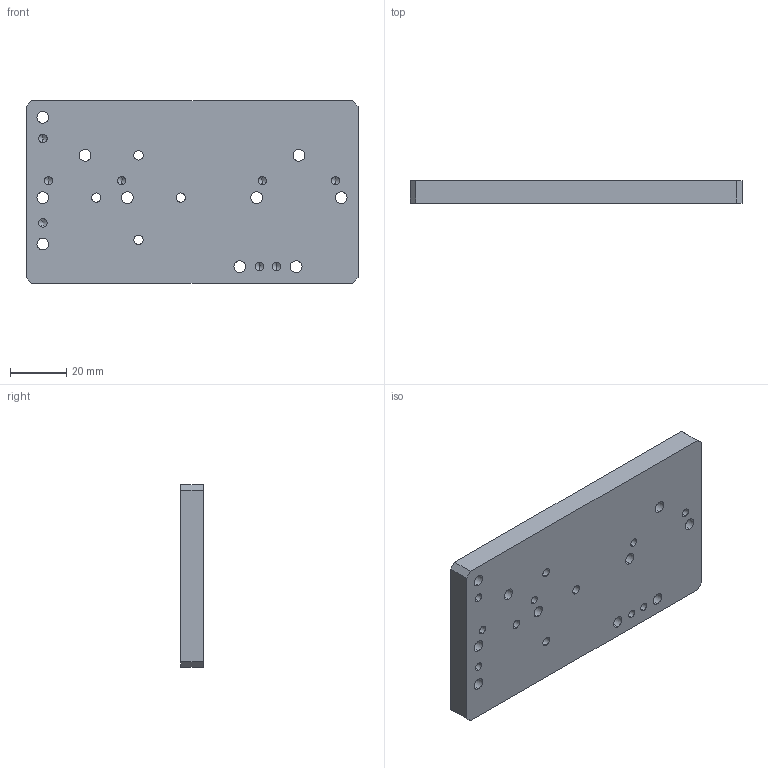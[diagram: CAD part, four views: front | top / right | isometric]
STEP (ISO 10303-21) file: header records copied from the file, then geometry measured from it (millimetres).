
FILE_DESCRIPTION (( 'STEP AP203' ), '1' );
FILE_NAME ('FB-011-01B蟀諉掖啣.STEP', '2025-03-24T07:25:07', ( 'Windows 蚚誧' ), ( 'Organization' ), 'SwSTEP 2.0', 'SolidWorks 2020', '' );
FILE_SCHEMA (( 'CONFIG_CONTROL_DESIGN' ));
Length unit declared in the file: millimetre
Products named in the file (1): FB-011-01B蟀諉掖啣
Bounding box: 118 x 8 x 65 mm (x, y, z)
Volume: 57643.8 mm3; surface area: 20432.8 mm2
Topology: 1 solids, 1 shells, 116 faces, 288 edges, 172 vertices
Faces by surface type: cylinder 72, cone 24, plane 20
Entity records: 3449 total; most frequent: DIRECTION 642, CARTESIAN_POINT 553, ORIENTED_EDGE 528, EDGE_CURVE 264, AXIS2_PLACEMENT_3D 261, VERTEX_POINT 172, EDGE_LOOP 166, CIRCLE 144
